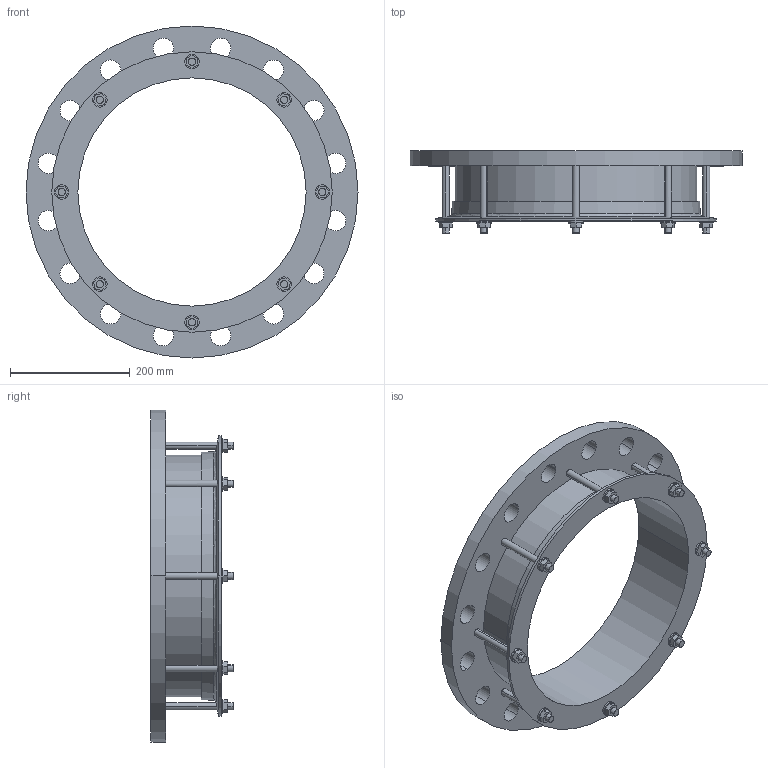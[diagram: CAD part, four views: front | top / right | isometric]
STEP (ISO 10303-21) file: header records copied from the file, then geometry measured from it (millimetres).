
FILE_DESCRIPTION((''),'2;1');
FILE_NAME('378X350PN25','2019-04-04T',('mfairey'),('Glynwed Pipe Systems'),'CREO PARAMETRIC BY PTC INC, 2016130','CREO PARAMETRIC BY PTC INC, 2016130','');
FILE_SCHEMA(('CONFIG_CONTROL_DESIGN'));
Length unit declared in the file: millimetre
Products named in the file (1): 378X350PN25
Bounding box: 555 x 137.45 x 555 mm (x, y, z)
Volume: 4693378.9 mm3; surface area: 686153.2 mm2
Topology: 1 solids, 1 shells, 170 faces, 446 edges, 296 vertices
Faces by surface type: cylinder 88, plane 76, cone 4, torus 2
Entity records: 5830 total; most frequent: CARTESIAN_POINT 1384, DIRECTION 924, ORIENTED_EDGE 892, EDGE_CURVE 446, AXIS2_PLACEMENT_3D 344, VERTEX_POINT 296, EDGE_LOOP 238, VECTOR 236
